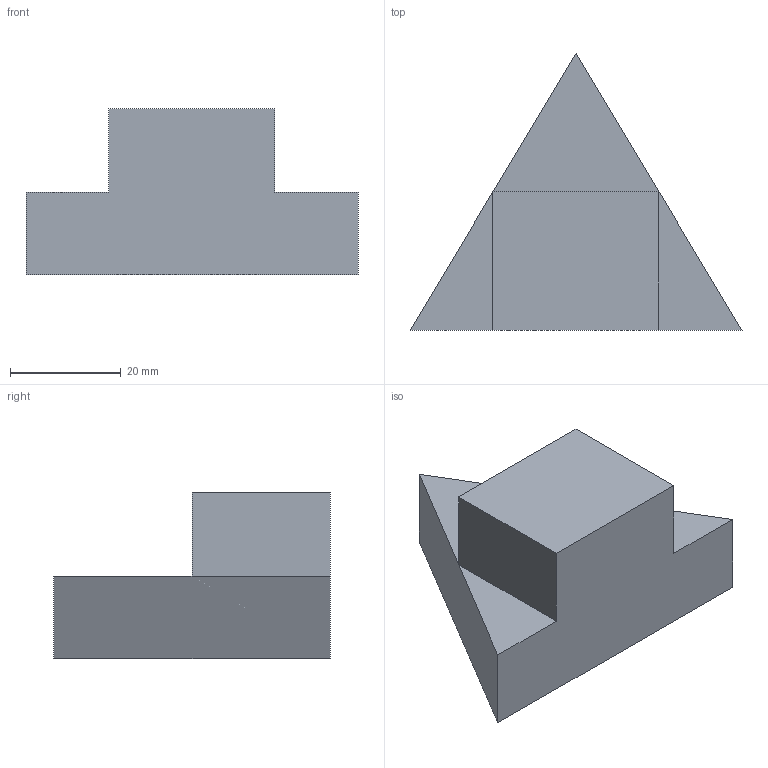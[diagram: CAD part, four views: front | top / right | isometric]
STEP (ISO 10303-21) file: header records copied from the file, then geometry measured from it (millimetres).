
FILE_DESCRIPTION(/* description */ (''),/* implementation_level */ '2;1');
FILE_NAME(/* name */ 'E:\OneDrive\Desktop\N5_GC_Orthographic\3D CAD Models\Task_7.stp',/* time_stamp */ '2020-06-09T12:48:03+01:00',/* author */ ('hunte'),/* organization */ (''),/* preprocessor_version */ 'ST-DEVELOPER v18.1',/* originating_system */ 'Autodesk Inventor 2020',/* authorisation */ '');
FILE_SCHEMA (('AUTOMOTIVE_DESIGN { 1 0 10303 214 3 1 1 }'));
Length unit declared in the file: millimetre
Products named in the file (1): Task_7
Bounding box: 60 x 50 x 30 mm (x, y, z)
Volume: 33750 mm3; surface area: 7299.3 mm2
Topology: 1 solids, 1 shells, 11 faces, 23 edges, 14 vertices
Faces by surface type: plane 11
Entity records: 326 total; most frequent: CARTESIAN_POINT 49, DIRECTION 47, ORIENTED_EDGE 46, LINE 23, VECTOR 23, EDGE_CURVE 23, VERTEX_POINT 14, AXIS2_PLACEMENT_3D 12
